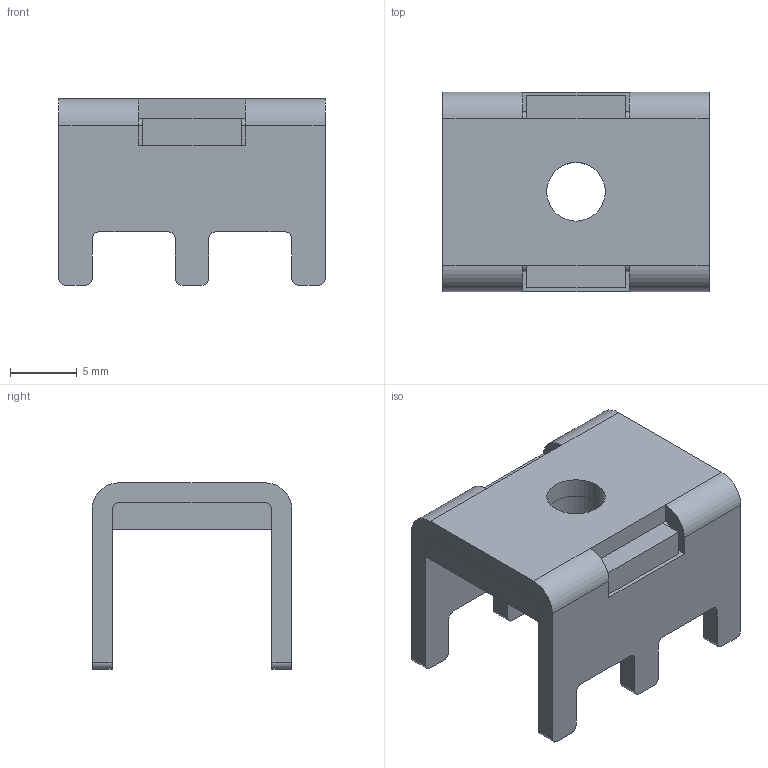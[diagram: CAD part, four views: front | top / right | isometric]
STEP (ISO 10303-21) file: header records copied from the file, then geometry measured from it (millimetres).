
FILE_DESCRIPTION(/* description */ (''),/* implementation_level */ '2;1');
FILE_NAME(/* name */ '20x15料厚1.5铁板3脚 高度10.0mm 脚长4.0mm.stp',/* time_stamp */ '2025-06-27T16:59:59+08:00',/* author */ (''),/* organization */ (''),/* preprocessor_version */ 'ST-DEVELOPER v16',/* originating_system */ 'SIEMENS PLM Software NX 10.0',/* authorisation */ '');
FILE_SCHEMA (('AP203_CONFIGURATION_CONTROLLED_3D_DESIGN_OF_MECHANICAL_PARTS_AND_ASSEMBLIES_MIM_LF { 1 0 10303 403 2 1 2}'));
Length unit declared in the file: millimetre
Products named in the file (1): Admi2ABC7C88fy3u
Bounding box: 20 x 15 x 14 mm (x, y, z)
Volume: 1395.3 mm3; surface area: 2168.2 mm2
Topology: 2 solids, 2 shells, 82 faces, 239 edges, 157 vertices
Faces by surface type: plane 48, cylinder 34
Full cylindrical faces by diameter (mm): 4.4 x2
Entity records: 2802 total; most frequent: CARTESIAN_POINT 475, ORIENTED_EDGE 472, DIRECTION 470, EDGE_CURVE 236, LINE 168, VECTOR 168, VERTEX_POINT 156, AXIS2_PLACEMENT_3D 151
